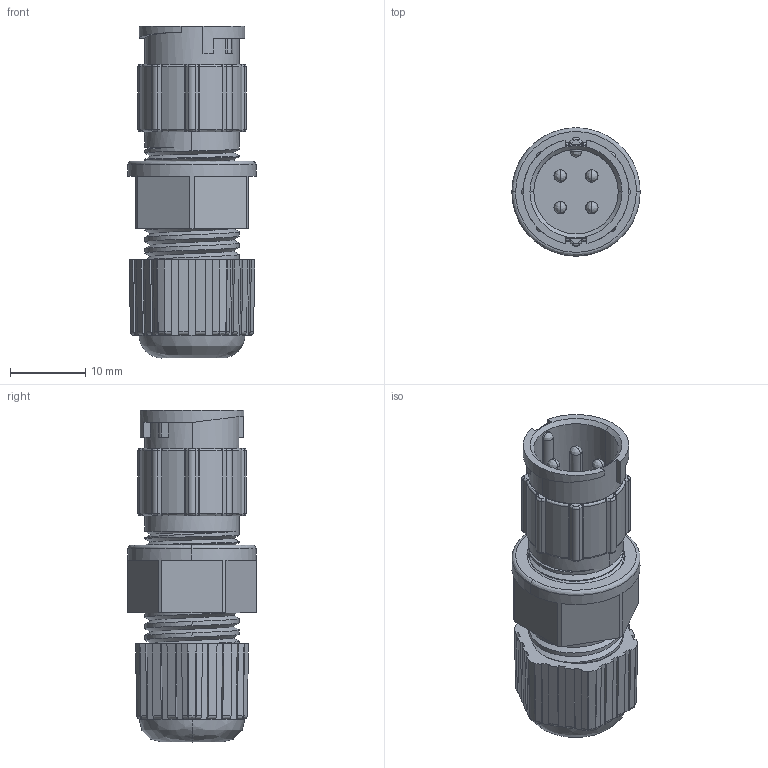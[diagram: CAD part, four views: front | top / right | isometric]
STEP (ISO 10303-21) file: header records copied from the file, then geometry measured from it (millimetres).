
FILE_DESCRIPTION (( 'STEP AP203' ), '1' );
FILE_NAME ('868-04A-103KIT.STEP', '2025-12-17T18:09:19', ( '' ), ( '' ), 'SwSTEP 2.0', 'SolidWorks 2020', '' );
FILE_SCHEMA (( 'CONFIG_CONTROL_DESIGN' ));
Length unit declared in the file: millimetre
Products named in the file (1): 868-04A-103KIT
Bounding box: 17 x 17 x 44 mm (x, y, z)
Volume: 4739.6 mm3; surface area: 5732.3 mm2
Topology: 1 solids, 1 shells, 590 faces, 1507 edges, 921 vertices
Faces by surface type: cylinder 216, plane 186, bspline 142, cone 46
Entity records: 30991 total; most frequent: CARTESIAN_POINT 18361, ORIENTED_EDGE 2980, DIRECTION 2108, EDGE_CURVE 1490, VERTEX_POINT 921, AXIS2_PLACEMENT_3D 782, EDGE_LOOP 613, ADVANCED_FACE 590
